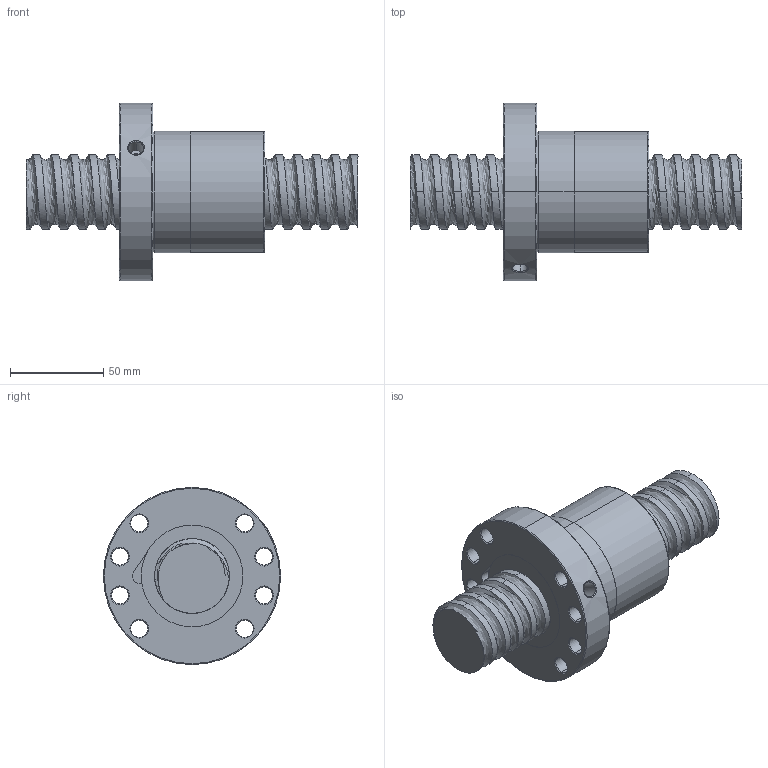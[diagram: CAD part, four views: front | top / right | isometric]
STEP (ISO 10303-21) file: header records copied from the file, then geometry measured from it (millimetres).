
FILE_DESCRIPTION (( 'STEP AP214' ), '1' );
FILE_NAME ('FSDC04010T5F-A.STEP', '2010-06-25T12:20:29', ( 'XPAUTO' ), ( 'XPAUTO' ), 'SwSTEP 2.0', 'SolidWorks 2007', '' );
FILE_SCHEMA (( 'AUTOMOTIVE_DESIGN' ));
Length unit declared in the file: millimetre
Products named in the file (3): FSDC04010T5F-A.sldasm-Part-2_預設; FSDC04010T5F-A; FSDC04010T5F-A.sldasm-Part-1_預設
Assembly tree (2 placements, depth 2):
  FSDC04010T5F-A
    FSDC04010T5F-A.sldasm-Part-1_預設
    FSDC04010T5F-A.sldasm-Part-2_預設
Bounding box: 178 x 95 x 95 mm (x, y, z)
Volume: 416184 mm3; surface area: 71895.6 mm2
Topology: 2 solids, 2 shells, 137 faces, 341 edges, 213 vertices
Faces by surface type: cylinder 78, cone 32, plane 16, torus 6, bspline 5
Entity records: 26642 total; most frequent: CARTESIAN_POINT 23358, ORIENTED_EDGE 682, DIRECTION 649, EDGE_CURVE 341, AXIS2_PLACEMENT_3D 266, VERTEX_POINT 213, EDGE_LOOP 162, ADVANCED_FACE 137
